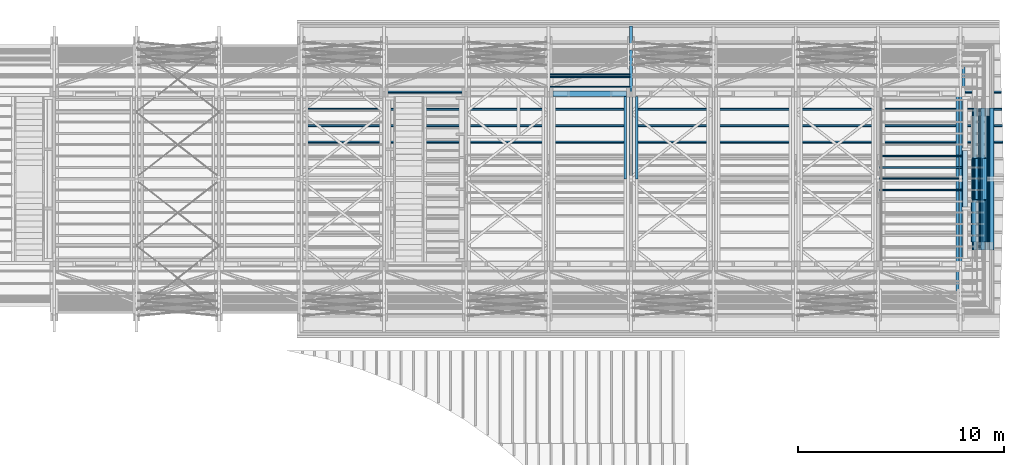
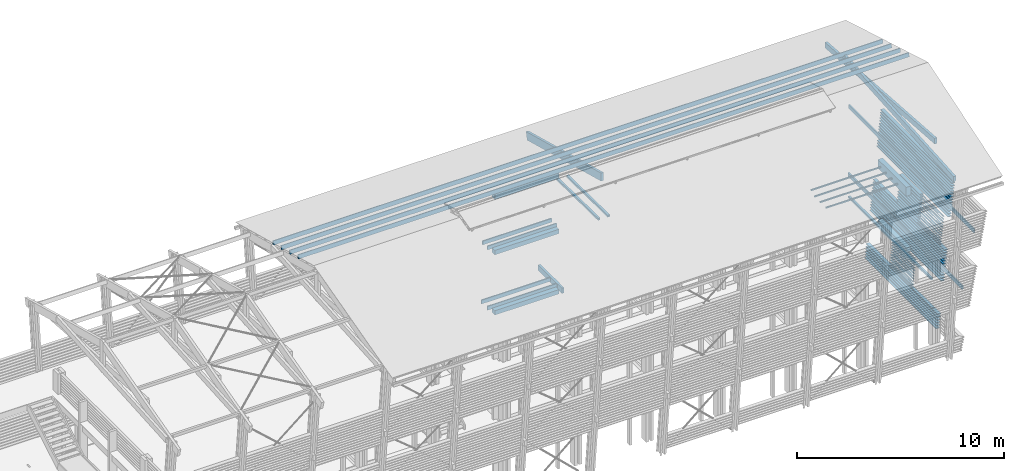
# One storey, part 23 of 48: 92 beams.
"""IFC2X3 building model written with IfcOpenShell, lengths in metres."""

import ifcopenshell
import ifcopenshell.guid

model = None  # the IFC model being written
_history = None  # IfcOwnerHistory: only IFC2X3 demands one
_inside = {}  # id of a spatial element -> (the spatial element, [elements in it])
_under = {}  # id of a project, library or spatial element -> (it, [spatial elements below it])
_declared = {}  # id of a project -> (the project, [libraries it declares])
_typed = {}  # id of a type object -> (the type object, [elements of that type])
_made_of = {}  # id of a material, layer set ... -> (it, [elements and type objects made of it])


def new_model(schema):
    """Start an empty IFC model of exactly this schema.

    Asked for "IFC4X3", IfcOpenShell would pick the latest addendum, in which some entities
    have other attributes; the version numbers below select the first issue.
    IFC2X3 requires an IfcOwnerHistory on every rooted entity: one is made here for all.
    """
    global model, _history
    if schema == "IFC4X3":
        model = ifcopenshell.file(schema_version=(4, 3, 0, 0))
    else:
        model = ifcopenshell.file(schema=schema)
    _inside.clear()
    _under.clear()
    _declared.clear()
    _typed.clear()
    _made_of.clear()
    _history = None
    if model.schema == "IFC2X3":
        org = make("IfcOrganization", Name="unknown")
        user = make(
            "IfcPersonAndOrganization",
            ThePerson=make("IfcPerson", FamilyName="unknown"),
            TheOrganization=org,
        )
        app = make(
            "IfcApplication",
            ApplicationDeveloper=org,
            Version="unknown",
            ApplicationFullName="unknown",
            ApplicationIdentifier="unknown",
        )
        _history = make(
            "IfcOwnerHistory",
            OwningUser=user,
            OwningApplication=app,
            ChangeAction="ADDED",
            CreationDate=0,
        )
    return model


def make(cls, **values):
    """One entity of the class cls with the attributes given. An attribute that is None is left unset."""
    return model.create_entity(
        cls, **{name: value for name, value in values.items() if value is not None}
    )


def rooted(cls, **values):
    """An entity with a GlobalId (a new one), such as an element, a storey or a relation."""
    return make(cls, GlobalId=ifcopenshell.guid.new(), OwnerHistory=_history, **values)


def si_unit(unit_type, name, prefix=None):
    """IfcSIUnit, for example si_unit("LENGTHUNIT", "METRE", prefix="MILLI")."""
    return make("IfcSIUnit", UnitType=unit_type, Prefix=prefix, Name=name)


def assignment(units):
    """IfcUnitAssignment: the units of a project."""
    return None if units is None else make("IfcUnitAssignment", Units=units)


def point(xyz):
    """IfcCartesianPoint."""
    return None if xyz is None else make("IfcCartesianPoint", Coordinates=xyz)


def direction(xyz):
    """IfcDirection."""
    return None if xyz is None else make("IfcDirection", DirectionRatios=xyz)


def frame(location, z_axis=None, x_axis=None):
    """IfcAxis2Placement3D, a coordinate frame: its origin and axes. An axis left out is left unset."""
    return make(
        "IfcAxis2Placement3D",
        Location=point(location),
        Axis=direction(z_axis),
        RefDirection=direction(x_axis),
    )


def origin_with_axes():
    """The frame at (0, 0, 0) with the z axis (0, 0, 1) and the x axis (1, 0, 0) written out."""
    return frame((0.0, 0.0, 0.0), z_axis=(0.0, 0.0, 1.0), x_axis=(1.0, 0.0, 0.0))


def place(relative_to, where):
    """IfcLocalPlacement: puts the frame where relative to a parent placement (None: the world)."""
    return make(
        "IfcLocalPlacement", PlacementRelTo=relative_to, RelativePlacement=where
    )


def context(
    kind, dimensions, precision=None, world=None, true_north=None, identifier=None
):
    """IfcGeometricRepresentationContext, for example the 3D "Model" context."""
    return make(
        "IfcGeometricRepresentationContext",
        ContextIdentifier=identifier,
        ContextType=kind,
        CoordinateSpaceDimension=dimensions,
        Precision=precision,
        WorldCoordinateSystem=world,
        TrueNorth=true_north,
    )


def subcontext(parent, identifier, kind, view, scale=None):
    """IfcGeometricRepresentationSubContext, for example "Body" below "Model"."""
    return make(
        "IfcGeometricRepresentationSubContext",
        ContextIdentifier=identifier,
        ContextType=kind,
        ParentContext=parent,
        TargetScale=scale,
        TargetView=view,
    )


def project(units=None, contexts=None):
    """IfcProject with its units and contexts."""
    return rooted(
        "IfcProject",
        Name="project",
        RepresentationContexts=contexts,
        UnitsInContext=assignment(units),
    )


def spatial(cls, under=None, at=None, **own):
    """A site, building, storey or space (cls), placed at a placement, below another one or the project."""
    s = rooted(cls, ObjectPlacement=at, **own)
    if under is not None:
        _under.setdefault(under.id(), (under, []))[1].append(s)
    return s


def faces_of(points, faces, orient=None, outer=None):
    """IfcFace entities. A face is a list of loops; a loop is a list of indices into points, from 0.

    orient and outer hold one flag for each loop. By default every Orientation is true, the
    first loop of a face is its IfcFaceOuterBound and the others are IfcFaceBound.
    """
    made = []
    for i, loops in enumerate(faces):
        bounds = []
        for j, loop in enumerate(loops):
            is_outer = j == 0 if outer is None else outer[i][j]
            bounds.append(
                make(
                    "IfcFaceOuterBound" if is_outer else "IfcFaceBound",
                    Bound=make("IfcPolyLoop", Polygon=[points[k] for k in loop]),
                    Orientation=True if orient is None else orient[i][j],
                )
            )
        made.append(make("IfcFace", Bounds=bounds))
    return made


def faceted_brep(points, faces, orient=None, outer=None, voids=None):
    """IfcFacetedBrep: a solid bounded by flat faces; with voids (closed shells), ...WithVoids."""
    shared = [point(p) for p in points]
    hull = make("IfcClosedShell", CfsFaces=faces_of(shared, faces, orient, outer))
    if voids is None:
        return make("IfcFacetedBrep", Outer=hull)
    return make(
        "IfcFacetedBrepWithVoids",
        Outer=hull,
        Voids=[
            make(cls, CfsFaces=faces_of(shared, fs, o, b)) for cls, fs, o, b in voids
        ],
    )


def shape(context_of_items, identifier, shape_type, items):
    """IfcShapeRepresentation: the items that make up one representation, for example the "Body"."""
    return make(
        "IfcShapeRepresentation",
        ContextOfItems=context_of_items,
        RepresentationIdentifier=identifier,
        RepresentationType=shape_type,
        Items=items,
    )


def material(Name=None, Category=None):
    """IfcMaterial."""
    return make("IfcMaterial", Name=Name, Category=Category)


def made_of(thing, what):
    """Note that an element or type object is made of a material, layer set ...; save() writes the relation."""
    if what is not None:
        _made_of.setdefault(what.id(), (what, []))[1].append(thing)
    return thing


def element(
    cls,
    number,
    at=None,
    inside=None,
    cuts=None,
    type_object=None,
    material=None,
    context=None,
    identifier="Body",
    shape_type=None,
    held_by="IfcProductDefinitionShape",
    body=None,
    shapes=None,
    **own,
):
    """One element of the class cls, such as IfcWall. Its Tag is "e" and its number.

    at: its placement. inside: the storey or other place that contains it. cuts: it is an
    opening in that element (IfcRelVoidsElement). A single representation is given by context,
    identifier, shape_type and body (its items); several are given by shapes. held_by: the class
    of the entity that holds the representations. save() writes the other relations.
    """
    e = rooted(cls, Tag="e%d" % number, ObjectPlacement=at, **own)
    if body is not None:
        shapes = [shape(context, identifier, shape_type, body)]
    if shapes is not None:
        e.Representation = make(held_by, Representations=shapes)
    if inside is not None:
        _inside.setdefault(inside.id(), (inside, []))[1].append(e)
    if cuts is not None:
        rooted(
            "IfcRelVoidsElement", RelatingBuildingElement=cuts, RelatedOpeningElement=e
        )
    if type_object is not None:
        _typed.setdefault(type_object.id(), (type_object, []))[1].append(e)
    return made_of(e, material)


def aggregate(whole, parts):
    """IfcRelAggregates: a whole, such as a stair, and the parts it consists of."""
    return rooted("IfcRelAggregates", RelatingObject=whole, RelatedObjects=parts)


def save(model, path):
    """Write the relations noted so far, then the file.

    IfcRelAggregates (storeys below a building ...), IfcRelContainedInSpatialStructure (elements
    in a storey), IfcRelDefinesByType, IfcRelAssociatesMaterial and IfcRelDeclares: one each for
    every whole, place, type object, material and project.
    """
    for whole, parts in _under.values():
        aggregate(whole, parts)
    for where, things in _inside.values():
        rooted(
            "IfcRelContainedInSpatialStructure",
            RelatedElements=things,
            RelatingStructure=where,
        )
    for kind, things in _typed.values():
        rooted("IfcRelDefinesByType", RelatedObjects=things, RelatingType=kind)
    for what, things in _made_of.values():
        rooted("IfcRelAssociatesMaterial", RelatedObjects=things, RelatingMaterial=what)
    for by, libraries in _declared.values():
        rooted("IfcRelDeclares", RelatingContext=by, RelatedDefinitions=libraries)
    model.write(path)


model = new_model("IFC2X3")

# Units and contexts
model_context = context("Model", 3, precision=1e-06, world=origin_with_axes(), true_north=direction((0.0, 1.0, 0.0)))
body_context = subcontext(model_context, "Body", "Model", "MODEL_VIEW")
ifc_project = project(units=[si_unit("LENGTHUNIT", "METRE"), si_unit("AREAUNIT", "SQUARE_METRE"), si_unit("VOLUMEUNIT", "CUBIC_METRE"), si_unit("PLANEANGLEUNIT", "RADIAN")], contexts=[model_context])

# Site, building, storey
site_placement = place(None, origin_with_axes())
site = spatial("IfcSite", under=ifc_project, at=site_placement, CompositionType="ELEMENT")
building_placement = place(site_placement, origin_with_axes())
building = spatial("IfcBuilding", under=site, at=building_placement, Name="Building 1", CompositionType="ELEMENT")
storey_placement = place(building_placement, origin_with_axes())
storey = spatial("IfcBuildingStorey", under=building, at=storey_placement, Name="Storey 1", CompositionType="ELEMENT", Elevation=0.0)

# Beams
ifc_material_1 = material(Name="GL28h")
beam_1_placement = place(storey_placement, frame((71.4988327, -185.8140801, 12.6157289), z_axis=(0.0, 0.258819, 0.9659258), x_axis=(-1.0, 0.0, 0.0)))
element("IfcBeam", 1, at=beam_1_placement, inside=storey, material=ifc_material_1, Name="pannes", context=body_context, shape_type="Brep", body=[
    faceted_brep([(0.0016292, 0.035, 0.11), (0.0, 0.035, -0.11), (0.0019346, -0.035, -0.11), (0.0035637, -0.035, 0.11), (34.079089, 0.035, -0.11), (34.079089, -0.035, -0.11), (34.079089, 0.035, 0.11), (34.079089, -0.035, 0.11)], [[[0, 1, 2, 3]], [[2, 1, 4, 5]], [[1, 0, 6, 4]], [[0, 3, 7, 6]], [[3, 2, 5, 7]], [[4, 6, 7, 5]]]),
])
ifc_material_2 = material(Name="Moabi")
beam_2_placement = place(storey_placement, frame((70.9738156, -185.7522789, 8.5103687), z_axis=(-0.9945219, 0.0, 0.1045285), x_axis=(0.0, -1.0, 0.0)))
element("IfcBeam", 2, at=beam_2_placement, inside=storey, material=ifc_material_2, Name="garde corp", context=body_context, shape_type="Brep", body=[
    faceted_brep([(6.9115817, 0.02, -0.1), (6.9115817, -0.02, -0.1), (0.0, -0.02, -0.1), (0.0, 0.02, -0.1), (6.9115817, -0.02, 0.1), (0.0, -0.02, 0.1), (6.9115817, 0.02, 0.1), (0.0, 0.02, 0.1)], [[[0, 1, 2, 3]], [[1, 4, 5, 2]], [[4, 6, 7, 5]], [[6, 0, 3, 7]], [[1, 0, 6, 4]], [[7, 3, 2, 5]]]),
])
beam_3_placement = place(storey_placement, frame((71.4757559, -185.007532, 12.399615), z_axis=(0.0, 0.258819, 0.9659258), x_axis=(-1.0, 0.0, 0.0)))
element("IfcBeam", 3, at=beam_3_placement, inside=storey, material=ifc_material_1, Name="pannes", context=body_context, shape_type="Brep", body=[
    faceted_brep([(0.0016292, 0.035, 0.11), (0.0, 0.035, -0.11), (0.0019346, -0.035, -0.11), (0.0035637, -0.035, 0.11), (34.0560122, 0.035, -0.11), (34.0560122, -0.035, -0.11), (34.0560122, 0.035, 0.11), (34.0560122, -0.035, 0.11)], [[[0, 1, 2, 3]], [[2, 1, 4, 5]], [[1, 0, 6, 4]], [[0, 3, 7, 6]], [[3, 2, 5, 7]], [[4, 6, 7, 5]]]),
])
beam_4_placement = place(storey_placement, frame((65.5597437, -188.6446515, 7.494), z_axis=(0.0, 0.0, 1.0), x_axis=(1.0, 0.0, 0.0)))
element("IfcBeam", 4, at=beam_4_placement, inside=storey, material=ifc_material_1, Name="Poutre - Bois de construction", context=body_context, shape_type="Brep", body=[
    faceted_brep([(4.02, -0.035, 0.035), (4.02, -0.035, -0.035), (4.02, 0.035, -0.035), (4.02, 0.035, 0.035), (0.0, -0.035, -0.035), (0.0, 0.035, -0.035), (0.0, -0.035, 0.035), (0.0, 0.035, 0.035)], [[[0, 1, 2, 3]], [[2, 1, 4, 5]], [[1, 0, 6, 4]], [[0, 3, 7, 6]], [[3, 2, 5, 7]], [[5, 4, 6, 7]]]),
])
beam_5_placement = place(storey_placement, frame((71.5449862, -187.4271762, 13.0479568), z_axis=(0.0, 0.258819, 0.9659258), x_axis=(-1.0, 0.0, 0.0)))
element("IfcBeam", 5, at=beam_5_placement, inside=storey, material=ifc_material_1, Name="pannes", context=body_context, shape_type="Brep", body=[
    faceted_brep([(0.0016292, 0.035, 0.11), (0.0, 0.035, -0.11), (0.0019346, -0.035, -0.11), (0.0035637, -0.035, 0.11), (34.1252425, 0.035, -0.11), (34.1252425, -0.035, -0.11), (34.1252425, 0.035, 0.11), (34.1252425, -0.035, 0.11)], [[[0, 1, 2, 3]], [[2, 1, 4, 5]], [[1, 0, 6, 4]], [[0, 3, 7, 6]], [[3, 2, 5, 7]], [[4, 6, 7, 5]]]),
])
beam_6_placement = place(storey_placement, frame((71.5219094, -186.6206282, 12.8318429), z_axis=(0.0, 0.258819, 0.9659258), x_axis=(-1.0, 0.0, 0.0)))
element("IfcBeam", 6, at=beam_6_placement, inside=storey, material=ifc_material_1, Name="pannes", context=body_context, shape_type="Brep", body=[
    faceted_brep([(0.0016292, 0.035, 0.11), (0.0, 0.035, -0.11), (0.0019346, -0.035, -0.11), (0.0035637, -0.035, 0.11), (34.1021657, 0.035, -0.11), (34.1021657, -0.035, -0.11), (34.1021657, 0.035, 0.11), (34.1021657, -0.035, 0.11)], [[[0, 1, 2, 3]], [[2, 1, 4, 5]], [[1, 0, 6, 4]], [[0, 3, 7, 6]], [[3, 2, 5, 7]], [[4, 6, 7, 5]]]),
])
beam_7_placement = place(storey_placement, frame((69.4997437, -185.2064881, 4.015), z_axis=(0.0, 0.0, 1.0), x_axis=(0.0, -1.0, 0.0)))
element("IfcBeam", 7, at=beam_7_placement, inside=storey, material=ifc_material_1, Name="Sous-glace", context=body_context, shape_type="Brep", body=[
    faceted_brep([(0.0, -0.06, -0.06), (0.0, 0.06, -0.06), (8.0031634, 0.06, -0.06), (8.0031634, -0.06, -0.06), (0.0, 0.06, 0.06), (8.0031634, 0.06, 0.06), (0.0, -0.06, 0.06), (8.0031634, -0.06, 0.06)], [[[0, 1, 2, 3]], [[1, 4, 5, 2]], [[4, 6, 7, 5]], [[6, 0, 3, 7]], [[0, 6, 4, 1]], [[5, 7, 3, 2]]]),
])
beam_8_placement = place(storey_placement, frame((69.7097437, -187.8380698, 7.53), z_axis=(0.0, 0.0, 1.0), x_axis=(0.0, -1.0, 0.0)))
element("IfcBeam", 8, at=beam_8_placement, inside=storey, material=ifc_material_1, Name="Buton", context=body_context, shape_type="Brep", body=[
    faceted_brep([(2.74, -0.13, -0.26), (2.74, 0.13, -0.26), (2.74, 0.13, 0.26), (2.74, -0.13, 0.26), (0.0, 0.13, 0.26), (0.0, -0.13, 0.26), (0.0, 0.13, -0.26), (0.0, -0.13, -0.26)], [[[0, 1, 2, 3]], [[3, 2, 4, 5]], [[2, 1, 6, 4]], [[5, 4, 6, 7]], [[1, 0, 7, 6]], [[0, 3, 5, 7]]]),
])
beam_9_placement = place(storey_placement, frame((53.2197437, -185.2055702, 10.7599682), z_axis=(0.0, 0.0149983, 0.9998875), x_axis=(0.0, -0.9998875, 0.0149983)))
element("IfcBeam", 9, at=beam_9_placement, inside=storey, material=ifc_material_1, Name="Sous-glace", context=body_context, shape_type="Brep", body=[
    faceted_brep([(4.0038138, -0.06, 0.06), (4.0020138, -0.06, -0.06), (4.0020138, 0.06, -0.06), (4.0038138, 0.06, 0.06), (0.0, -0.06, -0.06), (0.0, 0.06, -0.06), (0.0018, -0.06, 0.06), (0.0018, 0.06, 0.06)], [[[0, 1, 2, 3]], [[2, 1, 4, 5]], [[1, 0, 6, 4]], [[5, 4, 6, 7]], [[0, 3, 7, 6]], [[3, 2, 5, 7]]]),
])
beam_10_placement = place(storey_placement, frame((70.4888035, -185.7522789, 3.8957871), z_axis=(-0.9945219, 0.0, 0.1045285), x_axis=(0.0, -1.0, 0.0)))
element("IfcBeam", 10, at=beam_10_placement, inside=storey, material=ifc_material_2, Name="garde corp", context=body_context, shape_type="Brep", body=[
    faceted_brep([(6.9115817, 0.02, -0.1), (6.9115817, -0.02, -0.1), (0.0, -0.02, -0.1), (0.0, 0.02, -0.1), (6.9115817, -0.02, 0.1), (0.0, -0.02, 0.1), (6.9115817, 0.02, 0.1), (0.0, 0.02, 0.1)], [[[0, 1, 2, 3]], [[1, 4, 5, 2]], [[4, 6, 7, 5]], [[6, 0, 3, 7]], [[1, 0, 6, 4]], [[7, 3, 2, 5]]]),
])
beam_11_placement = place(storey_placement, frame((69.3497437, -195.6652037, 11.4619485), z_axis=(0.0, -0.070184, 0.9975341), x_axis=(0.0, 0.9975341, 0.070184)))
element("IfcBeam", 11, at=beam_11_placement, inside=storey, material=ifc_material_1, Name="Entrait", context=body_context, shape_type="Brep", body=[
    faceted_brep([(0.0, 0.07, 0.16), (0.0110373, 0.07, -0.16), (0.0110373, -0.07, -0.16), (0.0, -0.07, 0.16), (10.6243711, 0.07, -0.16), (10.6243711, -0.07, -0.16), (10.6243711, 0.07, 0.16), (10.6243711, -0.07, 0.16)], [[[0, 1, 2, 3]], [[2, 1, 4, 5]], [[1, 0, 6, 4]], [[5, 4, 6, 7]], [[3, 2, 5, 7]], [[0, 3, 7, 6]]]),
])
beam_12_placement = place(storey_placement, frame((70.6186142, -190.2580698, 6.4618787), z_axis=(-0.6427876, 0.0, 0.7660444), x_axis=(0.0, -1.0, 0.0)))
element("IfcBeam", 12, at=beam_12_placement, inside=storey, material=ifc_material_2, Name="garde corp", context=body_context, shape_type="Brep", body=[
    faceted_brep([(1.9999995, -0.02, -0.1), (1.9999995, -0.02, 0.1), (0.0, -0.02, 0.1), (0.0, -0.02, -0.1), (1.9999995, 0.02, 0.1), (0.0, 0.02, 0.1), (1.9999995, 0.02, -0.1), (0.0, 0.02, -0.1)], [[[0, 1, 2, 3]], [[1, 4, 5, 2]], [[4, 6, 7, 5]], [[6, 0, 3, 7]], [[1, 0, 6, 4]], [[7, 3, 2, 5]]]),
])
beam_13_placement = place(storey_placement, frame((69.6297437, -182.7509358, 11.4619485), z_axis=(0.0, 0.070184, 0.9975341), x_axis=(0.0, -0.9975341, 0.070184)))
element("IfcBeam", 13, at=beam_13_placement, inside=storey, material=ifc_material_1, Name="Entrait", context=body_context, shape_type="Brep", body=[
    faceted_brep([(0.0, 0.07, 0.16), (0.0110373, 0.07, -0.16), (0.0110373, -0.07, -0.16), (0.0, -0.07, 0.16), (10.6243711, 0.07, -0.16), (10.6243711, -0.07, -0.16), (10.6243711, 0.07, 0.16), (10.6243711, -0.07, 0.16)], [[[0, 1, 2, 3]], [[2, 1, 4, 5]], [[1, 0, 6, 4]], [[5, 4, 6, 7]], [[3, 2, 5, 7]], [[0, 3, 7, 6]]]),
])
beam_14_placement = place(storey_placement, frame((53.7597437, -185.2055702, 10.7599688), z_axis=(0.0, 0.0149983, 0.9998875), x_axis=(0.0, -0.9998875, 0.0149983)))
element("IfcBeam", 14, at=beam_14_placement, inside=storey, material=ifc_material_1, Name="Sous-glace", context=body_context, shape_type="Brep", body=[
    faceted_brep([(4.0038138, -0.06, 0.06), (4.0020138, -0.06, -0.06), (4.0020138, 0.06, -0.06), (4.0038138, 0.06, 0.06), (0.0, -0.06, -0.06), (0.0, 0.06, -0.06), (0.0018, -0.06, 0.06), (0.0018, 0.06, 0.06)], [[[0, 1, 2, 3]], [[2, 1, 4, 5]], [[1, 0, 6, 4]], [[5, 4, 6, 7]], [[0, 3, 7, 6]], [[3, 2, 5, 7]]]),
])
beam_15_placement = place(storey_placement, frame((65.5597437, -189.1946515, 7.494), z_axis=(0.0, 0.0, 1.0), x_axis=(1.0, 0.0, 0.0)))
element("IfcBeam", 15, at=beam_15_placement, inside=storey, material=ifc_material_1, Name="Poutre - Bois de construction", context=body_context, shape_type="Brep", body=[
    faceted_brep([(4.02, -0.035, 0.035), (4.02, -0.035, -0.035), (4.02, 0.035, -0.035), (4.02, 0.035, 0.035), (0.0, -0.035, -0.035), (0.0, 0.035, -0.035), (0.0, -0.035, 0.035), (0.0, 0.035, 0.035)], [[[0, 1, 2, 3]], [[2, 1, 4, 5]], [[1, 0, 6, 4]], [[0, 3, 7, 6]], [[3, 2, 5, 7]], [[5, 4, 6, 7]]]),
])
beam_16_placement = place(storey_placement, frame((69.7097437, -187.8380698, 4.085), z_axis=(0.0, 0.0, 1.0), x_axis=(0.0, -1.0, 0.0)))
element("IfcBeam", 16, at=beam_16_placement, inside=storey, material=ifc_material_1, Name="Buton", context=body_context, shape_type="Brep", body=[
    faceted_brep([(2.74, 0.13, -0.13), (2.74, 0.13, 0.13), (2.74, -0.13, 0.13), (2.74, -0.13, -0.13), (0.0, -0.13, -0.13), (0.0, 0.13, -0.13), (0.0, -0.13, 0.13), (0.0, 0.13, 0.13)], [[[0, 1, 2, 3]], [[0, 3, 4, 5]], [[3, 2, 6, 4]], [[1, 0, 5, 7]], [[2, 1, 7, 6]], [[7, 5, 4, 6]]]),
])
beam_17_placement = place(storey_placement, frame((49.5596481, -184.7314881, 7.699), z_axis=(0.0, 0.0, 1.0), x_axis=(1.0, 0.0, 0.0)))
element("IfcBeam", 17, at=beam_17_placement, inside=storey, material=ifc_material_1, Name="Solive", context=body_context, shape_type="Brep", body=[
    faceted_brep([(3.8600004, -0.035, -0.11), (3.8600956, 0.035, -0.11), (3.8600956, 0.035, 0.11), (3.8600004, -0.035, 0.11), (0.0, 0.035, -0.11), (0.0, 0.035, 0.11), (0.0, -0.035, -0.11), (0.0, -0.035, 0.11)], [[[0, 1, 2, 3]], [[2, 1, 4, 5]], [[1, 0, 6, 4]], [[0, 3, 7, 6]], [[3, 2, 5, 7]], [[7, 5, 4, 6]]]),
])
for number, where, z_axis, x_axis, name in (
    (18, (70.5015423, -190.2580698, 5.3480142), (-0.6427876, 0.0, 0.7660444), (0.0, -1.0, 0.0), "garde corp"),
    (19, (70.6353387, -190.2580698, 6.6210022), (-0.6427876, 0.0, 0.7660444), (0.0, -1.0, 0.0), "garde corp"),
):
    element("IfcBeam", number, at=place(storey_placement, frame(where, z_axis=z_axis, x_axis=x_axis)), inside=storey, material=ifc_material_2, Name=name, context=body_context, shape_type="Brep", body=[
        faceted_brep([(1.9999995, -0.02, -0.1), (1.9999995, -0.02, 0.1), (0.0, -0.02, 0.1), (0.0, -0.02, -0.1), (1.9999995, 0.02, 0.1), (0.0, 0.02, 0.1), (1.9999995, 0.02, -0.1), (0.0, 0.02, -0.1)], [[[0, 1, 2, 3]], [[1, 4, 5, 2]], [[4, 6, 7, 5]], [[6, 0, 3, 7]], [[1, 0, 6, 4]], [[7, 3, 2, 5]]]),
    ])
for number, where, z_axis, x_axis, name in (
    (20, (70.5335877, -188.2080698, 5.4999935), (1.0, 0.0, 0.0), (0.0, -1.0, 0.0), "garde corp"),
    (21, (70.6673842, -188.2080698, 6.7729815), (1.0, 0.0, 0.0), (0.0, -1.0, 0.0), "garde corp"),
):
    element("IfcBeam", number, at=place(storey_placement, frame(where, z_axis=z_axis, x_axis=x_axis)), inside=storey, material=ifc_material_2, Name=name, context=body_context, shape_type="Brep", body=[
        faceted_brep([(1.9999995, -0.02, 0.1), (2.0, 0.02, 0.1), (0.0, 0.02, 0.1), (0.0, -0.02, 0.1), (2.0, 0.02, -0.1), (0.0, 0.02, -0.1), (2.0, -0.02, -0.1), (0.0, -0.02, -0.1)], [[[0, 1, 2, 3]], [[1, 4, 5, 2]], [[4, 6, 7, 5]], [[6, 0, 3, 7]], [[1, 0, 6, 4]], [[7, 3, 2, 5]]]),
    ])
for number, where, z_axis, x_axis, name in (
    (22, (70.6520633, -190.2580698, 6.7801257), (-0.6427876, 0.0, 0.7660444), (0.0, -1.0, 0.0), "garde corp"),
    (23, (70.5349914, -190.2580698, 5.6662612), (-0.6427876, 0.0, 0.7660444), (0.0, -1.0, 0.0), "garde corp"),
):
    element("IfcBeam", number, at=place(storey_placement, frame(where, z_axis=z_axis, x_axis=x_axis)), inside=storey, material=ifc_material_2, Name=name, context=body_context, shape_type="Brep", body=[
        faceted_brep([(1.9999995, -0.02, -0.1), (1.9999995, -0.02, 0.1), (0.0, -0.02, 0.1), (0.0, -0.02, -0.1), (1.9999995, 0.02, 0.1), (0.0, 0.02, 0.1), (1.9999995, 0.02, -0.1), (0.0, 0.02, -0.1)], [[[0, 1, 2, 3]], [[1, 4, 5, 2]], [[4, 6, 7, 5]], [[6, 0, 3, 7]], [[1, 0, 6, 4]], [[7, 3, 2, 5]]]),
    ])
beam_18_placement = place(storey_placement, frame((70.5001386, -188.2080698, 5.1817464), z_axis=(1.0, 0.0, 0.0), x_axis=(0.0, -1.0, 0.0)))
element("IfcBeam", 24, at=beam_18_placement, inside=storey, material=ifc_material_2, Name="garde corp", context=body_context, shape_type="Brep", body=[
    faceted_brep([(1.9999995, -0.02, 0.1), (2.0, 0.02, 0.1), (0.0, 0.02, 0.1), (0.0, -0.02, 0.1), (2.0, 0.02, -0.1), (0.0, 0.02, -0.1), (2.0, -0.02, -0.1), (0.0, -0.02, -0.1)], [[[0, 1, 2, 3]], [[1, 4, 5, 2]], [[4, 6, 7, 5]], [[6, 0, 3, 7]], [[1, 0, 6, 4]], [[7, 3, 2, 5]]]),
])
beam_19_placement = place(storey_placement, frame((70.1180563, -188.2080698, 1.6868872), z_axis=(-0.7071068, 0.0, 0.7071068), x_axis=(0.0, -1.0, 0.0)))
element("IfcBeam", 25, at=beam_19_placement, inside=storey, material=ifc_material_2, Name="garde corp", context=body_context, shape_type="Brep", body=[
    faceted_brep([(2.0, -0.02, -0.1), (2.0, -0.02, 0.1), (0.0, -0.02, 0.1), (0.0, -0.02, -0.1), (2.0, 0.02, 0.1), (0.0, 0.02, 0.1), (2.0, 0.02, -0.1), (0.0, 0.02, -0.1)], [[[0, 1, 2, 3]], [[1, 4, 5, 2]], [[4, 6, 7, 5]], [[6, 0, 3, 7]], [[1, 0, 6, 4]], [[7, 3, 2, 5]]]),
])
for number, where, z_axis, x_axis, name in (
    (26, (70.6172105, -188.2080698, 6.295611), (1.0, 0.0, 0.0), (0.0, -1.0, 0.0), "garde corp"),
    (27, (70.5503123, -188.2080698, 5.659117), (1.0, 0.0, 0.0), (0.0, -1.0, 0.0), "garde corp"),
    (28, (70.5168632, -188.2080698, 5.34087), (1.0, 0.0, 0.0), (0.0, -1.0, 0.0), "garde corp"),
    (29, (70.600486, -188.2080698, 6.1364875), (1.0, 0.0, 0.0), (0.0, -1.0, 0.0), "garde corp"),
    (30, (70.6339351, -188.2080698, 6.4547345), (1.0, 0.0, 0.0), (0.0, -1.0, 0.0), "garde corp"),
    (31, (70.6506596, -188.2080698, 6.613858), (1.0, 0.0, 0.0), (0.0, -1.0, 0.0), "garde corp"),
):
    element("IfcBeam", number, at=place(storey_placement, frame(where, z_axis=z_axis, x_axis=x_axis)), inside=storey, material=ifc_material_2, Name=name, context=body_context, shape_type="Brep", body=[
        faceted_brep([(1.9999995, -0.02, 0.1), (2.0, 0.02, 0.1), (0.0, 0.02, 0.1), (0.0, -0.02, 0.1), (2.0, 0.02, -0.1), (0.0, 0.02, -0.1), (2.0, -0.02, -0.1), (0.0, -0.02, -0.1)], [[[0, 1, 2, 3]], [[1, 4, 5, 2]], [[4, 6, 7, 5]], [[6, 0, 3, 7]], [[1, 0, 6, 4]], [[7, 3, 2, 5]]]),
    ])
beam_20_placement = place(storey_placement, frame((70.1515054, -188.2080698, 2.0051342), z_axis=(-0.7071068, 0.0, 0.7071068), x_axis=(0.0, -1.0, 0.0)))
element("IfcBeam", 32, at=beam_20_placement, inside=storey, material=ifc_material_2, Name="garde corp", context=body_context, shape_type="Brep", body=[
    faceted_brep([(2.0, -0.02, -0.1), (2.0, -0.02, 0.1), (0.0, -0.02, 0.1), (0.0, -0.02, -0.1), (2.0, 0.02, 0.1), (0.0, 0.02, 0.1), (2.0, 0.02, -0.1), (0.0, 0.02, -0.1)], [[[0, 1, 2, 3]], [[1, 4, 5, 2]], [[4, 6, 7, 5]], [[6, 0, 3, 7]], [[1, 0, 6, 4]], [[7, 3, 2, 5]]]),
])
for number, where, z_axis, x_axis, name in (
    (33, (70.5182668, -190.2580698, 5.5071377), (-0.6427876, 0.0, 0.7660444), (0.0, -1.0, 0.0), "garde corp"),
    (34, (70.4848177, -190.2580698, 5.1888907), (-0.6427876, 0.0, 0.7660444), (0.0, -1.0, 0.0), "garde corp"),
):
    element("IfcBeam", number, at=place(storey_placement, frame(where, z_axis=z_axis, x_axis=x_axis)), inside=storey, material=ifc_material_2, Name=name, context=body_context, shape_type="Brep", body=[
        faceted_brep([(1.9999995, -0.02, -0.1), (1.9999995, -0.02, 0.1), (0.0, -0.02, 0.1), (0.0, -0.02, -0.1), (1.9999995, 0.02, 0.1), (0.0, 0.02, 0.1), (1.9999995, 0.02, -0.1), (0.0, 0.02, -0.1)], [[[0, 1, 2, 3]], [[1, 4, 5, 2]], [[4, 6, 7, 5]], [[6, 0, 3, 7]], [[1, 0, 6, 4]], [[7, 3, 2, 5]]]),
    ])
beam_21_placement = place(storey_placement, frame((70.5837614, -188.2080698, 5.977364), z_axis=(1.0, 0.0, 0.0), x_axis=(0.0, -1.0, 0.0)))
element("IfcBeam", 35, at=beam_21_placement, inside=storey, material=ifc_material_2, Name="garde corp", context=body_context, shape_type="Brep", body=[
    faceted_brep([(1.9999995, -0.02, 0.1), (2.0, 0.02, 0.1), (0.0, 0.02, 0.1), (0.0, -0.02, 0.1), (2.0, 0.02, -0.1), (0.0, 0.02, -0.1), (2.0, -0.02, -0.1), (0.0, -0.02, -0.1)], [[[0, 1, 2, 3]], [[1, 4, 5, 2]], [[4, 6, 7, 5]], [[6, 0, 3, 7]], [[1, 0, 6, 4]], [[7, 3, 2, 5]]]),
])
beam_22_placement = place(storey_placement, frame((70.5851651, -190.2580698, 6.1436317), z_axis=(-0.6427876, 0.0, 0.7660444), x_axis=(0.0, -1.0, 0.0)))
element("IfcBeam", 36, at=beam_22_placement, inside=storey, material=ifc_material_2, Name="garde corp", context=body_context, shape_type="Brep", body=[
    faceted_brep([(1.9999995, -0.02, -0.1), (1.9999995, -0.02, 0.1), (0.0, -0.02, 0.1), (0.0, -0.02, -0.1), (1.9999995, 0.02, 0.1), (0.0, 0.02, 0.1), (1.9999995, 0.02, -0.1), (0.0, 0.02, -0.1)], [[[0, 1, 2, 3]], [[1, 4, 5, 2]], [[4, 6, 7, 5]], [[6, 0, 3, 7]], [[1, 0, 6, 4]], [[7, 3, 2, 5]]]),
])
beam_23_placement = place(storey_placement, frame((49.6997437, -185.0764881, 10.94), z_axis=(0.0, 0.0, 1.0), x_axis=(1.0, 0.0, 0.0)))
element("IfcBeam", 37, at=beam_23_placement, inside=storey, material=ifc_material_1, Name="Buton", context=body_context, shape_type="Brep", body=[
    faceted_brep([(0.0, 0.13, 0.16), (0.0, -0.13, 0.16), (3.58, -0.13, 0.16), (3.58, 0.13, 0.16), (0.0, -0.13, -0.16), (3.58, -0.13, -0.16), (0.0, 0.13, -0.16), (3.58, 0.13, -0.16)], [[[0, 1, 2, 3]], [[2, 1, 4, 5]], [[1, 0, 6, 4]], [[5, 4, 6, 7]], [[3, 2, 5, 7]], [[0, 3, 7, 6]]]),
])
beam_24_placement = place(storey_placement, frame((65.6997437, -188.0946515, 7.494), z_axis=(0.0, 0.0, 1.0), x_axis=(1.0, 0.0, 0.0)))
element("IfcBeam", 38, at=beam_24_placement, inside=storey, material=ifc_material_1, Name="Poutre - Bois de construction", context=body_context, shape_type="Brep", body=[
    faceted_brep([(3.88, 0.035, 0.035), (3.88, 0.035, -0.035), (0.0, 0.035, -0.035), (0.0, 0.035, 0.035), (3.88, -0.035, 0.035), (0.0, -0.035, 0.035), (3.88, -0.035, -0.035), (0.0, -0.035, -0.035)], [[[0, 1, 2, 3]], [[4, 0, 3, 5]], [[6, 4, 5, 7]], [[1, 6, 7, 2]], [[4, 6, 1, 0]], [[2, 7, 5, 3]]]),
])
for number, where, z_axis, x_axis, name in (
    (39, (70.2685773, -188.2080698, 3.1189988), (-0.7071068, 0.0, 0.7071068), (0.0, -1.0, 0.0), "garde corp"),
    (40, (70.2518527, -188.2080698, 2.9598753), (-0.7071068, 0.0, 0.7071068), (0.0, -1.0, 0.0), "garde corp"),
    (41, (70.16823, -188.2080698, 2.1642578), (-0.7071068, 0.0, 0.7071068), (0.0, -1.0, 0.0), "garde corp"),
    (42, (70.1849545, -188.2080698, 2.3233813), (-0.7071068, 0.0, 0.7071068), (0.0, -1.0, 0.0), "garde corp"),
    (43, (70.2184036, -188.2080698, 2.6416283), (-0.7071068, 0.0, 0.7071068), (0.0, -1.0, 0.0), "garde corp"),
    (44, (70.1013317, -188.2080698, 1.5277637), (-0.7071068, 0.0, 0.7071068), (0.0, -1.0, 0.0), "garde corp"),
    (45, (70.2016791, -188.2080698, 2.4825048), (-0.7071068, 0.0, 0.7071068), (0.0, -1.0, 0.0), "garde corp"),
    (46, (70.1347809, -188.2080698, 1.8460107), (-0.7071068, 0.0, 0.7071068), (0.0, -1.0, 0.0), "garde corp"),
):
    element("IfcBeam", number, at=place(storey_placement, frame(where, z_axis=z_axis, x_axis=x_axis)), inside=storey, material=ifc_material_2, Name=name, context=body_context, shape_type="Brep", body=[
        faceted_brep([(2.0, -0.02, -0.1), (2.0, -0.02, 0.1), (0.0, -0.02, 0.1), (0.0, -0.02, -0.1), (2.0, 0.02, 0.1), (0.0, 0.02, 0.1), (2.0, 0.02, -0.1), (0.0, 0.02, -0.1)], [[[0, 1, 2, 3]], [[1, 4, 5, 2]], [[4, 6, 7, 5]], [[6, 0, 3, 7]], [[1, 0, 6, 4]], [[7, 3, 2, 5]]]),
    ])
beam_25_placement = place(storey_placement, frame((70.80657, -185.7522789, 6.9191336), z_axis=(-0.9945219, 0.0, 0.1045285), x_axis=(0.0, -1.0, 0.0)))
element("IfcBeam", 47, at=beam_25_placement, inside=storey, material=ifc_material_2, Name="garde corp", context=body_context, shape_type="Brep", body=[
    faceted_brep([(6.9115817, 0.02, -0.1), (6.9115817, -0.02, -0.1), (0.0, -0.02, -0.1), (0.0, 0.02, -0.1), (6.9115817, -0.02, 0.1), (0.0, -0.02, 0.1), (6.9115817, 0.02, 0.1), (0.0, 0.02, 0.1)], [[[0, 1, 2, 3]], [[1, 4, 5, 2]], [[4, 6, 7, 5]], [[6, 0, 3, 7]], [[1, 0, 6, 4]], [[7, 3, 2, 5]]]),
])
for number, where, z_axis, x_axis, name in (
    (48, (70.5684405, -190.2580698, 5.9845082), (-0.6427876, 0.0, 0.7660444), (0.0, -1.0, 0.0), "garde corp"),
    (49, (70.551716, -190.2580698, 5.8253847), (-0.6427876, 0.0, 0.7660444), (0.0, -1.0, 0.0), "garde corp"),
    (50, (70.6018896, -190.2580698, 6.3027552), (-0.6427876, 0.0, 0.7660444), (0.0, -1.0, 0.0), "garde corp"),
):
    element("IfcBeam", number, at=place(storey_placement, frame(where, z_axis=z_axis, x_axis=x_axis)), inside=storey, material=ifc_material_2, Name=name, context=body_context, shape_type="Brep", body=[
        faceted_brep([(1.9999995, -0.02, -0.1), (1.9999995, -0.02, 0.1), (0.0, -0.02, 0.1), (0.0, -0.02, -0.1), (1.9999995, 0.02, 0.1), (0.0, 0.02, 0.1), (1.9999995, 0.02, -0.1), (0.0, 0.02, -0.1)], [[[0, 1, 2, 3]], [[1, 4, 5, 2]], [[4, 6, 7, 5]], [[6, 0, 3, 7]], [[1, 0, 6, 4]], [[7, 3, 2, 5]]]),
    ])
beam_26_placement = place(storey_placement, frame((70.5670368, -188.2080698, 5.8182405), z_axis=(1.0, 0.0, 0.0), x_axis=(0.0, -1.0, 0.0)))
element("IfcBeam", 51, at=beam_26_placement, inside=storey, material=ifc_material_2, Name="garde corp", context=body_context, shape_type="Brep", body=[
    faceted_brep([(1.9999995, -0.02, 0.1), (2.0, 0.02, 0.1), (0.0, 0.02, 0.1), (0.0, -0.02, 0.1), (2.0, 0.02, -0.1), (0.0, 0.02, -0.1), (2.0, -0.02, -0.1), (0.0, -0.02, -0.1)], [[[0, 1, 2, 3]], [[1, 4, 5, 2]], [[4, 6, 7, 5]], [[6, 0, 3, 7]], [[1, 0, 6, 4]], [[7, 3, 2, 5]]]),
])
for number, where, z_axis, x_axis, name in (
    (52, (70.5055281, -185.7522789, 4.0549106), (-0.9945219, 0.0, 0.1045285), (0.0, -1.0, 0.0), "garde corp"),
    (53, (70.9069174, -185.7522789, 7.8738747), (-0.9945219, 0.0, 0.1045285), (0.0, -1.0, 0.0), "garde corp"),
):
    element("IfcBeam", number, at=place(storey_placement, frame(where, z_axis=z_axis, x_axis=x_axis)), inside=storey, material=ifc_material_2, Name=name, context=body_context, shape_type="Brep", body=[
        faceted_brep([(6.9115817, 0.02, -0.1), (6.9115817, -0.02, -0.1), (0.0, -0.02, -0.1), (0.0, 0.02, -0.1), (6.9115817, -0.02, 0.1), (0.0, -0.02, 0.1), (6.9115817, 0.02, 0.1), (0.0, 0.02, 0.1)], [[[0, 1, 2, 3]], [[1, 4, 5, 2]], [[4, 6, 7, 5]], [[6, 0, 3, 7]], [[1, 0, 6, 4]], [[7, 3, 2, 5]]]),
    ])
beam_27_placement = place(storey_placement, frame((70.2351282, -188.2080698, 2.8007518), z_axis=(-0.7071068, 0.0, 0.7071068), x_axis=(0.0, -1.0, 0.0)))
element("IfcBeam", 54, at=beam_27_placement, inside=storey, material=ifc_material_2, Name="garde corp", context=body_context, shape_type="Brep", body=[
    faceted_brep([(2.0, -0.02, -0.1), (2.0, -0.02, 0.1), (0.0, -0.02, 0.1), (0.0, -0.02, -0.1), (2.0, 0.02, 0.1), (0.0, 0.02, 0.1), (2.0, 0.02, -0.1), (0.0, 0.02, -0.1)], [[[0, 1, 2, 3]], [[1, 4, 5, 2]], [[4, 6, 7, 5]], [[6, 0, 3, 7]], [[1, 0, 6, 4]], [[7, 3, 2, 5]]]),
])
for number, where, z_axis, x_axis, name in (
    (55, (70.472079, -185.7522789, 3.7366636), (-0.9945219, 0.0, 0.1045285), (0.0, -1.0, 0.0), "garde corp"),
    (56, (70.9403665, -185.7522789, 8.1921217), (-0.9945219, 0.0, 0.1045285), (0.0, -1.0, 0.0), "garde corp"),
    (57, (70.8734683, -185.7522789, 7.5556277), (-0.9945219, 0.0, 0.1045285), (0.0, -1.0, 0.0), "garde corp"),
    (58, (70.5389772, -185.7522789, 4.3731576), (-0.9945219, 0.0, 0.1045285), (0.0, -1.0, 0.0), "garde corp"),
    (59, (70.2212107, -185.7522789, 1.349811), (-0.9945219, 0.0, 0.1045285), (0.0, -1.0, 0.0), "garde corp"),
    (60, (70.1543124, -185.7522789, 0.713317), (-0.9945219, 0.0, 0.1045285), (0.0, -1.0, 0.0), "garde corp"),
    (61, (70.2044861, -185.7522789, 1.1906875), (-0.9945219, 0.0, 0.1045285), (0.0, -1.0, 0.0), "garde corp"),
    (62, (70.1375879, -185.7522789, 0.5541935), (-0.9945219, 0.0, 0.1045285), (0.0, -1.0, 0.0), "garde corp"),
    (63, (70.5557017, -185.7522789, 4.5322811), (-0.9945219, 0.0, 0.1045285), (0.0, -1.0, 0.0), "garde corp"),
    (64, (70.4219053, -185.7522789, 3.2592931), (-0.9945219, 0.0, 0.1045285), (0.0, -1.0, 0.0), "garde corp"),
    (65, (70.5222526, -185.7522789, 4.2140341), (-0.9945219, 0.0, 0.1045285), (0.0, -1.0, 0.0), "garde corp"),
    (66, (70.1877615, -185.7522789, 1.031564), (-0.9945219, 0.0, 0.1045285), (0.0, -1.0, 0.0), "garde corp"),
    (67, (70.6058754, -185.7522789, 5.0096516), (-0.9945219, 0.0, 0.1045285), (0.0, -1.0, 0.0), "garde corp"),
    (68, (70.171037, -185.7522789, 0.8724405), (-0.9945219, 0.0, 0.1045285), (0.0, -1.0, 0.0), "garde corp"),
):
    element("IfcBeam", number, at=place(storey_placement, frame(where, z_axis=z_axis, x_axis=x_axis)), inside=storey, material=ifc_material_2, Name=name, context=body_context, shape_type="Brep", body=[
        faceted_brep([(6.9115817, 0.02, -0.1), (6.9115817, -0.02, -0.1), (0.0, -0.02, -0.1), (0.0, 0.02, -0.1), (6.9115817, -0.02, 0.1), (0.0, -0.02, 0.1), (6.9115817, 0.02, 0.1), (0.0, 0.02, 0.1)], [[[0, 1, 2, 3]], [[1, 4, 5, 2]], [[4, 6, 7, 5]], [[6, 0, 3, 7]], [[1, 0, 6, 4]], [[7, 3, 2, 5]]]),
    ])
beam_28_placement = place(storey_placement, frame((70.1102975, -190.2580698, 1.5225874), z_axis=(-0.9659258, 0.0, 0.258819), x_axis=(0.0, -1.0, 0.0)))
element("IfcBeam", 69, at=beam_28_placement, inside=storey, material=ifc_material_2, Name="garde corp", context=body_context, shape_type="Brep", body=[
    faceted_brep([(1.9999995, 0.02, -0.1), (1.9999995, -0.02, -0.1), (0.0, -0.02, -0.1), (0.0, 0.02, -0.1), (1.9999995, -0.02, 0.1), (0.0, -0.02, 0.1), (1.9999995, 0.02, 0.1), (0.0, 0.02, 0.1)], [[[0, 1, 2, 3]], [[1, 4, 5, 2]], [[4, 6, 7, 5]], [[6, 0, 3, 7]], [[1, 0, 6, 4]], [[7, 3, 2, 5]]]),
])
for number, where, z_axis, x_axis, name in (
    (70, (70.4386299, -185.7522789, 3.4184166), (-0.9945219, 0.0, 0.1045285), (0.0, -1.0, 0.0), "garde corp"),
    (71, (71.0072647, -185.7522789, 8.8286157), (-0.9945219, 0.0, 0.1045285), (0.0, -1.0, 0.0), "garde corp"),
    (72, (70.8901928, -185.7522789, 7.7147512), (-0.9945219, 0.0, 0.1045285), (0.0, -1.0, 0.0), "garde corp"),
):
    element("IfcBeam", number, at=place(storey_placement, frame(where, z_axis=z_axis, x_axis=x_axis)), inside=storey, material=ifc_material_2, Name=name, context=body_context, shape_type="Brep", body=[
        faceted_brep([(6.9115817, 0.02, -0.1), (6.9115817, -0.02, -0.1), (0.0, -0.02, -0.1), (0.0, 0.02, -0.1), (6.9115817, -0.02, 0.1), (0.0, -0.02, 0.1), (6.9115817, 0.02, 0.1), (0.0, 0.02, 0.1)], [[[0, 1, 2, 3]], [[1, 4, 5, 2]], [[4, 6, 7, 5]], [[6, 0, 3, 7]], [[1, 0, 6, 4]], [[7, 3, 2, 5]]]),
    ])
beam_29_placement = place(storey_placement, frame((53.4897437, -181.8355309, 11.197686), z_axis=(0.0, 0.258819, 0.9659258), x_axis=(0.0, -0.9659258, 0.258819)))
element("IfcBeam", 73, at=beam_29_placement, inside=storey, material=ifc_material_1, Name="Arbalétrier", context=body_context, shape_type="Brep", body=[
    faceted_brep([(7.4053414, 0.07, -0.23), (7.5285981, 0.07, 0.23), (7.5285981, -0.07, 0.23), (7.4053414, -0.07, -0.23), (0.0, 0.07, 0.23), (0.0, -0.07, 0.23), (0.0, 0.07, -0.23), (0.0, -0.07, -0.23)], [[[0, 1, 2, 3]], [[2, 1, 4, 5]], [[1, 0, 6, 4]], [[0, 3, 7, 6]], [[3, 2, 5, 7]], [[6, 7, 5, 4]]]),
])
beam_30_placement = place(storey_placement, frame((70.9905401, -185.7522789, 8.6694922), z_axis=(-0.9945219, 0.0, 0.1045285), x_axis=(0.0, -1.0, 0.0)))
element("IfcBeam", 74, at=beam_30_placement, inside=storey, material=ifc_material_2, Name="garde corp", context=body_context, shape_type="Brep", body=[
    faceted_brep([(6.9115817, 0.02, -0.1), (6.9115817, -0.02, -0.1), (0.0, -0.02, -0.1), (0.0, 0.02, -0.1), (6.9115817, -0.02, 0.1), (0.0, -0.02, 0.1), (6.9115817, 0.02, 0.1), (0.0, 0.02, 0.1)], [[[0, 1, 2, 3]], [[1, 4, 5, 2]], [[4, 6, 7, 5]], [[6, 0, 3, 7]], [[1, 0, 6, 4]], [[7, 3, 2, 5]]]),
])
beam_31_placement = place(storey_placement, frame((65.5597437, -189.7446515, 7.494), z_axis=(0.0, 0.0, 1.0), x_axis=(1.0, 0.0, 0.0)))
element("IfcBeam", 75, at=beam_31_placement, inside=storey, material=ifc_material_1, Name="Poutre - Bois de construction", context=body_context, shape_type="Brep", body=[
    faceted_brep([(4.02, -0.035, 0.035), (4.02, -0.035, -0.035), (4.02, 0.035, -0.035), (4.02, 0.035, 0.035), (0.0, -0.035, -0.035), (0.0, 0.035, -0.035), (0.0, -0.035, 0.035), (0.0, 0.035, 0.035)], [[[0, 1, 2, 3]], [[2, 1, 4, 5]], [[1, 0, 6, 4]], [[0, 3, 7, 6]], [[3, 2, 5, 7]], [[5, 4, 6, 7]]]),
])
for number, where, z_axis, x_axis, name in (
    (76, (70.5891508, -185.7522789, 4.8505281), (-0.9945219, 0.0, 0.1045285), (0.0, -1.0, 0.0), "garde corp"),
    (77, (71.0239892, -185.7522789, 8.9877392), (-0.9945219, 0.0, 0.1045285), (0.0, -1.0, 0.0), "garde corp"),
    (78, (70.8232946, -185.7522789, 7.0782572), (-0.9945219, 0.0, 0.1045285), (0.0, -1.0, 0.0), "garde corp"),
    (79, (70.957091, -185.7522789, 8.3512452), (-0.9945219, 0.0, 0.1045285), (0.0, -1.0, 0.0), "garde corp"),
    (80, (70.8567437, -185.7522789, 7.3965042), (-0.9945219, 0.0, 0.1045285), (0.0, -1.0, 0.0), "garde corp"),
    (81, (70.5724263, -185.7522789, 4.6914046), (-0.9945219, 0.0, 0.1045285), (0.0, -1.0, 0.0), "garde corp"),
):
    element("IfcBeam", number, at=place(storey_placement, frame(where, z_axis=z_axis, x_axis=x_axis)), inside=storey, material=ifc_material_2, Name=name, context=body_context, shape_type="Brep", body=[
        faceted_brep([(6.9115817, 0.02, -0.1), (6.9115817, -0.02, -0.1), (0.0, -0.02, -0.1), (0.0, 0.02, -0.1), (6.9115817, -0.02, 0.1), (0.0, -0.02, 0.1), (6.9115817, 0.02, 0.1), (0.0, 0.02, 0.1)], [[[0, 1, 2, 3]], [[1, 4, 5, 2]], [[4, 6, 7, 5]], [[6, 0, 3, 7]], [[1, 0, 6, 4]], [[7, 3, 2, 5]]]),
    ])
beam_32_placement = place(storey_placement, frame((53.4897437, -185.2264881, 4.089), z_axis=(0.0, 0.0, 1.0), x_axis=(0.0, 1.0, 0.0)))
element("IfcBeam", 82, at=beam_32_placement, inside=storey, material=ifc_material_1, Name="Sommier Coursive", context=body_context, shape_type="Brep", body=[
    faceted_brep([(0.0, 0.05, 0.16), (0.44, 0.05, 0.16), (0.44, 0.05, -0.16), (0.0, 0.05, -0.16), (0.44, 0.07, 0.16), (0.44, 0.07, -0.16), (0.0, -0.05, 0.16), (0.44, -0.05, 0.16), (0.44, -0.07, 0.16), (2.2900003, -0.07, 0.16), (2.2900003, 0.07, 0.16), (0.0, -0.05, -0.16), (0.44, -0.05, -0.16), (0.44, -0.07, -0.16), (2.2900003, 0.07, -0.16), (2.2900003, -0.07, -0.16)], [[[0, 1, 2, 3]], [[1, 4, 5, 2]], [[4, 1, 0, 6, 7, 8, 9, 10]], [[0, 3, 11, 6]], [[11, 12, 7, 6]], [[12, 13, 8, 7]], [[2, 5, 14, 15, 13, 12, 11, 3]], [[8, 13, 15, 9]], [[5, 4, 10, 14]], [[10, 9, 15, 14]]]),
])
for number, where, z_axis, x_axis, name in (
    (83, (70.8400192, -185.7522789, 7.2373807), (-0.9945219, 0.0, 0.1045285), (0.0, -1.0, 0.0), "garde corp"),
    (84, (70.4553544, -185.7522789, 3.5775401), (-0.9945219, 0.0, 0.1045285), (0.0, -1.0, 0.0), "garde corp"),
    (85, (70.9236419, -185.7522789, 8.0329982), (-0.9945219, 0.0, 0.1045285), (0.0, -1.0, 0.0), "garde corp"),
):
    element("IfcBeam", number, at=place(storey_placement, frame(where, z_axis=z_axis, x_axis=x_axis)), inside=storey, material=ifc_material_2, Name=name, context=body_context, shape_type="Brep", body=[
        faceted_brep([(6.9115817, 0.02, -0.1), (6.9115817, -0.02, -0.1), (0.0, -0.02, -0.1), (0.0, 0.02, -0.1), (6.9115817, -0.02, 0.1), (0.0, -0.02, 0.1), (6.9115817, 0.02, 0.1), (0.0, 0.02, 0.1)], [[[0, 1, 2, 3]], [[1, 4, 5, 2]], [[4, 6, 7, 5]], [[6, 0, 3, 7]], [[1, 0, 6, 4]], [[7, 3, 2, 5]]]),
    ])
for number, where, z_axis, x_axis in (
    (86, (49.5597437, -184.2514881, 7.699), (0.0, 0.0, 1.0), (1.0, 0.0, 0.0)),
    (87, (49.5597437, -184.1344693, 4.139), (0.0, 0.0, 1.0), (1.0, 0.0, 0.0)),
    (88, (49.5597437, -184.7314881, 4.139), (0.0, 0.0, 1.0), (1.0, 0.0, 0.0)),
):
    element("IfcBeam", number, at=place(storey_placement, frame(where, z_axis=z_axis, x_axis=x_axis)), inside=storey, material=ifc_material_1, Name="Solive", context=body_context, shape_type="Brep", body=[
        faceted_brep([(3.86, 0.035, 0.11), (3.86, 0.035, -0.11), (0.0, 0.035, -0.11), (0.0, 0.035, 0.11), (3.86, -0.035, -0.11), (0.0, -0.035, -0.11), (3.86, -0.035, 0.11), (0.0, -0.035, 0.11)], [[[0, 1, 2, 3]], [[1, 4, 5, 2]], [[4, 6, 7, 5]], [[6, 0, 3, 7]], [[1, 0, 6, 4]], [[7, 3, 2, 5]]]),
    ])
for number, where, z_axis, x_axis in (
    (89, (49.6997437, -185.0764881, 7.645), (0.0, 0.0, 1.0), (1.0, 0.0, 0.0)),
    (90, (49.6997437, -185.0764881, 4.085), (0.0, 0.0, 1.0), (1.0, 0.0, 0.0)),
):
    element("IfcBeam", number, at=place(storey_placement, frame(where, z_axis=z_axis, x_axis=x_axis)), inside=storey, material=ifc_material_1, Name="Buton", context=body_context, shape_type="Brep", body=[
        faceted_brep([(0.0, 0.13, 0.13), (0.0, -0.13, 0.13), (3.58, -0.13, 0.13), (3.58, 0.13, 0.13), (0.0, -0.13, -0.13), (3.58, -0.13, -0.13), (0.0, 0.13, -0.13), (3.58, 0.13, -0.13)], [[[0, 1, 2, 3]], [[2, 1, 4, 5]], [[1, 0, 6, 4]], [[5, 4, 6, 7]], [[0, 3, 7, 6]], [[3, 2, 5, 7]]]),
    ])
beam_33_placement = place(storey_placement, frame((70.6786389, -183.1364881, 7.699), z_axis=(0.0, 0.0, 1.0), x_axis=(0.0, -1.0, 0.0)))
element("IfcBeam", 91, at=beam_33_placement, inside=storey, material=ifc_material_1, Name="Solive", context=body_context, shape_type="Brep", body=[
    faceted_brep([(12.1431634, 0.035, 0.11), (12.1431634, 0.035, -0.11), (0.0, 0.035, -0.11), (0.0, 0.035, 0.11), (12.1431634, -0.035, -0.11), (0.0, -0.035, -0.11), (12.1431634, -0.035, 0.11), (0.0, -0.035, 0.11)], [[[0, 1, 2, 3]], [[1, 4, 5, 2]], [[4, 6, 7, 5]], [[6, 0, 3, 7]], [[1, 0, 6, 4]], [[7, 3, 2, 5]]]),
])
beam_34_placement = place(storey_placement, frame((70.3361389, -183.6864881, 4.139), z_axis=(0.0, 0.0, 1.0), x_axis=(0.0, -1.0, 0.0)))
element("IfcBeam", 92, at=beam_34_placement, inside=storey, material=ifc_material_1, Name="Solive", context=body_context, shape_type="Brep", body=[
    faceted_brep([(11.0431634, 0.035, 0.11), (11.0431634, 0.035, -0.11), (0.0, 0.035, -0.11), (0.0, 0.035, 0.11), (11.0431634, -0.035, -0.11), (0.0, -0.035, -0.11), (11.0431634, -0.035, 0.11), (0.0, -0.035, 0.11)], [[[0, 1, 2, 3]], [[1, 4, 5, 2]], [[4, 6, 7, 5]], [[6, 0, 3, 7]], [[1, 0, 6, 4]], [[7, 3, 2, 5]]]),
])

save(model, "model.ifc")
